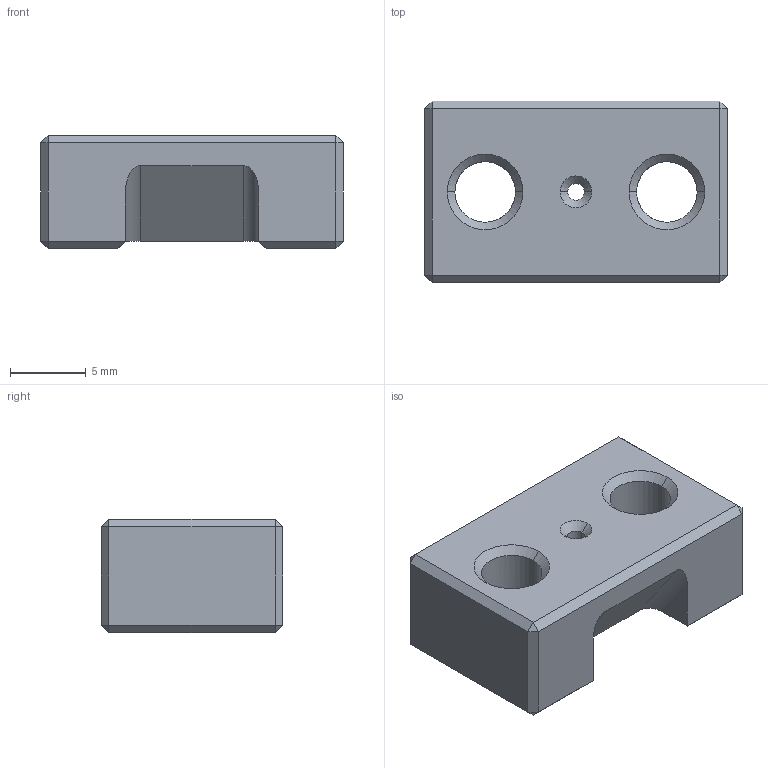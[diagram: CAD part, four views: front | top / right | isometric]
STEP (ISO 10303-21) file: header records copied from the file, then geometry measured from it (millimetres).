
FILE_DESCRIPTION (( 'STEP AP214' ), '1' );
FILE_NAME ('TRL-0039-A.STEP', '2021-06-25T18:45:48', ( '' ), ( '' ), 'SwSTEP 2.0', 'SolidWorks 2016', '' );
FILE_SCHEMA (( 'AUTOMOTIVE_DESIGN' ));
Length unit declared in the file: millimetre
Products named in the file (1): TRL-0039-A
Bounding box: 20 x 12 x 7.5 mm (x, y, z)
Volume: 1356.9 mm3; surface area: 1061.1 mm2
Topology: 1 solids, 1 shells, 66 faces, 148 edges, 83 vertices
Faces by surface type: plane 41, cone 13, cylinder 12
Entity records: 1819 total; most frequent: CARTESIAN_POINT 334, DIRECTION 303, ORIENTED_EDGE 296, EDGE_CURVE 148, LINE 103, VECTOR 103, AXIS2_PLACEMENT_3D 100, VERTEX_POINT 83
